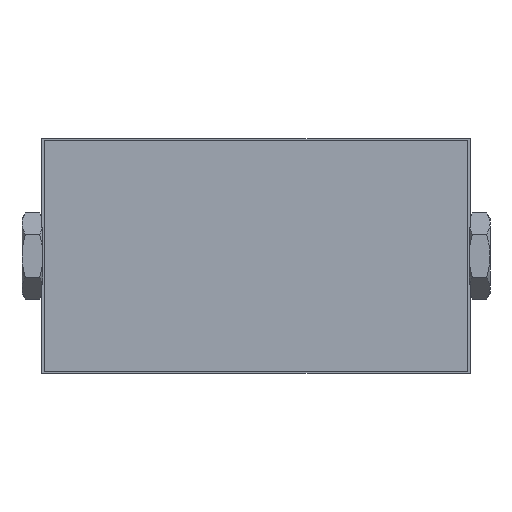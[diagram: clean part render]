
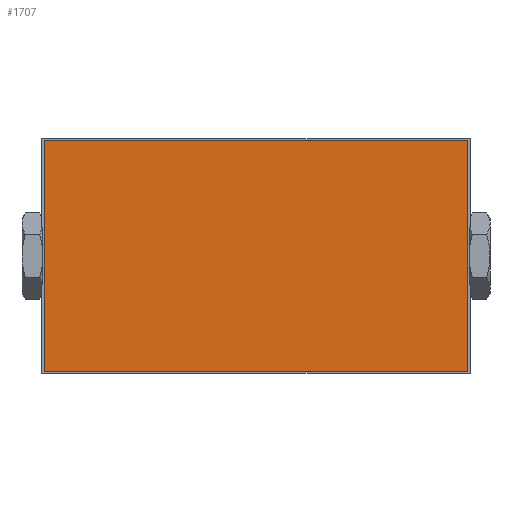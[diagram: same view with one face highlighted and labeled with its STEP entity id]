
A CAD part, top view. The second image highlights one B-rep face of the part: STEP entity #1707.
In plain terms, the highlighted planar face has unit normal (0, 0, 1).
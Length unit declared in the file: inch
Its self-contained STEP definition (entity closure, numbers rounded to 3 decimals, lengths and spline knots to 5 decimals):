
#1628=DIRECTION('',(0.,1.,0.));
#1629=VECTOR('',#1628,2.718);
#1630=CARTESIAN_POINT('',(-2.4835,-1.359,0.546));
#1631=LINE('',#1630,#1629);
#1632=DIRECTION('',(1.,0.,0.));
#1633=VECTOR('',#1632,4.968);
#1634=CARTESIAN_POINT('',(-2.4835,1.359,0.546));
#1635=LINE('',#1634,#1633);
#1636=DIRECTION('',(0.,-1.,0.));
#1637=VECTOR('',#1636,2.718);
#1638=CARTESIAN_POINT('',(2.4845,1.359,0.546));
#1639=LINE('',#1638,#1637);
#1640=DIRECTION('',(-1.,0.,0.));
#1641=VECTOR('',#1640,4.968);
#1642=CARTESIAN_POINT('',(2.4845,-1.359,0.546));
#1643=LINE('',#1642,#1641);
#1676=CARTESIAN_POINT('',(-2.4835,-1.359,0.546));
#1677=CARTESIAN_POINT('',(-2.4835,1.359,0.546));
#1678=VERTEX_POINT('',#1676);
#1679=VERTEX_POINT('',#1677);
#1680=CARTESIAN_POINT('',(2.4845,1.359,0.546));
#1681=VERTEX_POINT('',#1680);
#1682=CARTESIAN_POINT('',(2.4845,-1.359,0.546));
#1683=VERTEX_POINT('',#1682);
#1692=CARTESIAN_POINT('',(0.0005,-1.359,0.546));
#1693=DIRECTION('',(0.,0.,-1.));
#1694=DIRECTION('',(-1.,0.,0.));
#1695=AXIS2_PLACEMENT_3D('',#1692,#1693,#1694);
#1696=PLANE('',#1695);
#1698=ORIENTED_EDGE('',*,*,#1697,.T.);
#1700=ORIENTED_EDGE('',*,*,#1699,.T.);
#1702=ORIENTED_EDGE('',*,*,#1701,.T.);
#1704=ORIENTED_EDGE('',*,*,#1703,.T.);
#1705=EDGE_LOOP('',(#1698,#1700,#1702,#1704));
#1706=FACE_OUTER_BOUND('',#1705,.F.);
#1707=ADVANCED_FACE('',(#1706),#1696,.F.);
#1697=EDGE_CURVE('',#1678,#1679,#1631,.T.);
#1699=EDGE_CURVE('',#1679,#1681,#1635,.T.);
#1701=EDGE_CURVE('',#1681,#1683,#1639,.T.);
#1703=EDGE_CURVE('',#1683,#1678,#1643,.T.);
